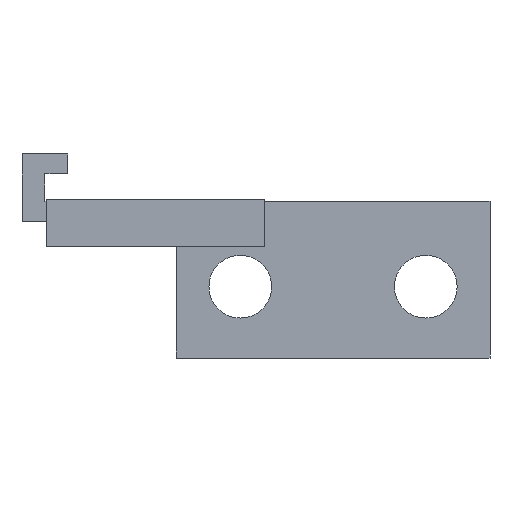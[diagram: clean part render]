
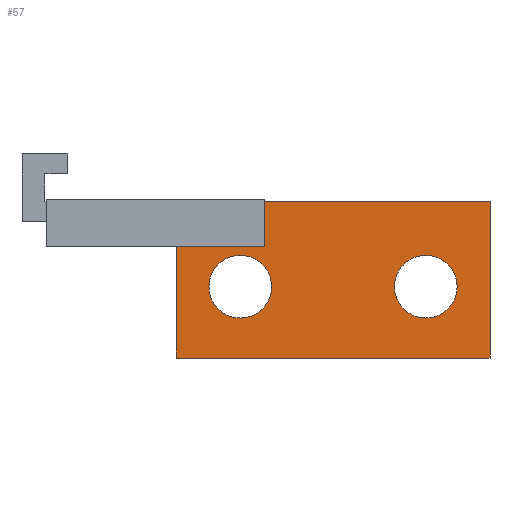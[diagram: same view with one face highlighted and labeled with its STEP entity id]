
A CAD part, left-side view. The second image highlights one B-rep face of the part: STEP entity #57.
In plain terms, the highlighted planar face has unit normal (-1, 0, 0).
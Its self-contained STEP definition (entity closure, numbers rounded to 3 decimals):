
#21 = EDGE_CURVE('',#22,#24,#26,.T.);
#22 = VERTEX_POINT('',#23);
#23 = CARTESIAN_POINT('',(51.8,24.5,28.5));
#24 = VERTEX_POINT('',#25);
#25 = CARTESIAN_POINT('',(51.8,24.5,34.));
#26 = LINE('',#27,#28);
#27 = CARTESIAN_POINT('',(51.8,24.5,28.5));
#28 = VECTOR('',#29,1.);
#29 = DIRECTION('',(0.,0.,1.));
#57 = ADVANCED_FACE('',(#58,#99,#110),#121,.F.);
#58 = FACE_BOUND('',#59,.F.);
#59 = EDGE_LOOP('',(#60,#68,#76,#84,#92,#98));
#60 = ORIENTED_EDGE('',*,*,#61,.F.);
#61 = EDGE_CURVE('',#62,#22,#64,.T.);
#62 = VERTEX_POINT('',#63);
#63 = CARTESIAN_POINT('',(51.8,35.5,28.5));
#64 = LINE('',#65,#66);
#65 = CARTESIAN_POINT('',(51.8,35.5,28.5));
#66 = VECTOR('',#67,1.);
#67 = DIRECTION('',(0.,-1.,0.));
#68 = ORIENTED_EDGE('',*,*,#69,.T.);
#69 = EDGE_CURVE('',#62,#70,#72,.T.);
#70 = VERTEX_POINT('',#71);
#71 = CARTESIAN_POINT('',(51.8,35.5,32.4));
#72 = LINE('',#73,#74);
#73 = CARTESIAN_POINT('',(51.8,35.5,28.5));
#74 = VECTOR('',#75,1.);
#75 = DIRECTION('',(0.,0.,1.));
#76 = ORIENTED_EDGE('',*,*,#77,.T.);
#77 = EDGE_CURVE('',#70,#78,#80,.T.);
#78 = VERTEX_POINT('',#79);
#79 = CARTESIAN_POINT('',(51.8,32.4,32.4));
#80 = LINE('',#81,#82);
#81 = CARTESIAN_POINT('',(51.8,35.863,32.4));
#82 = VECTOR('',#83,1.);
#83 = DIRECTION('',(0.,-1.,0.));
#84 = ORIENTED_EDGE('',*,*,#85,.T.);
#85 = EDGE_CURVE('',#78,#86,#88,.T.);
#86 = VERTEX_POINT('',#87);
#87 = CARTESIAN_POINT('',(51.8,32.4,34.));
#88 = LINE('',#89,#90);
#89 = CARTESIAN_POINT('',(51.8,32.4,30.45));
#90 = VECTOR('',#91,1.);
#91 = DIRECTION('',(0.,0.,1.));
#92 = ORIENTED_EDGE('',*,*,#93,.T.);
#93 = EDGE_CURVE('',#86,#24,#94,.T.);
#94 = LINE('',#95,#96);
#95 = CARTESIAN_POINT('',(51.8,35.5,34.));
#96 = VECTOR('',#97,1.);
#97 = DIRECTION('',(0.,-1.,0.));
#98 = ORIENTED_EDGE('',*,*,#21,.F.);
#99 = FACE_BOUND('',#100,.F.);
#100 = EDGE_LOOP('',(#101));
#101 = ORIENTED_EDGE('',*,*,#102,.F.);
#102 = EDGE_CURVE('',#103,#103,#105,.T.);
#103 = VERTEX_POINT('',#104);
#104 = CARTESIAN_POINT('',(51.8,33.25,29.9));
#105 = CIRCLE('',#106,1.1);
#106 = AXIS2_PLACEMENT_3D('',#107,#108,#109);
#107 = CARTESIAN_POINT('',(51.8,33.25,31.));
#108 = DIRECTION('',(1.,-0.,0.));
#109 = DIRECTION('',(0.,0.,-1.));
#110 = FACE_BOUND('',#111,.F.);
#111 = EDGE_LOOP('',(#112));
#112 = ORIENTED_EDGE('',*,*,#113,.F.);
#113 = EDGE_CURVE('',#114,#114,#116,.T.);
#114 = VERTEX_POINT('',#115);
#115 = CARTESIAN_POINT('',(51.8,26.75,29.9));
#116 = CIRCLE('',#117,1.1);
#117 = AXIS2_PLACEMENT_3D('',#118,#119,#120);
#118 = CARTESIAN_POINT('',(51.8,26.75,31.));
#119 = DIRECTION('',(1.,-0.,0.));
#120 = DIRECTION('',(0.,0.,-1.));
#121 = PLANE('',#122);
#122 = AXIS2_PLACEMENT_3D('',#123,#124,#125);
#123 = CARTESIAN_POINT('',(51.8,35.5,28.5));
#124 = DIRECTION('',(1.,0.,0.));
#125 = DIRECTION('',(0.,-1.,0.));
